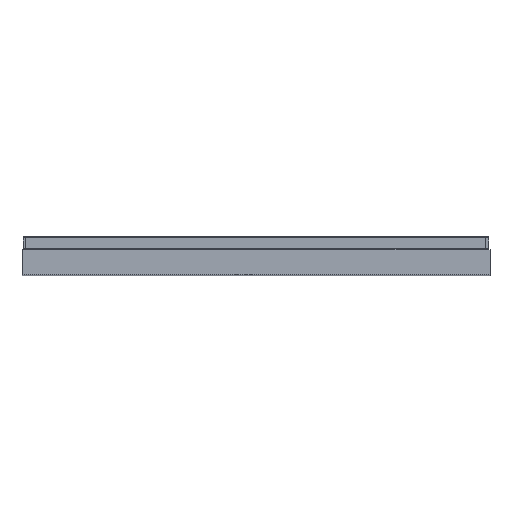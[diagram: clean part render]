
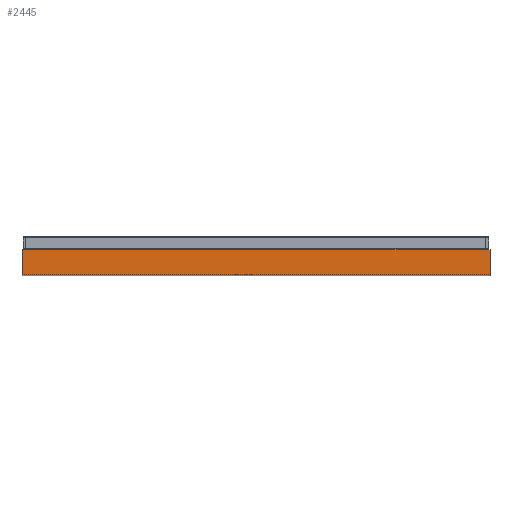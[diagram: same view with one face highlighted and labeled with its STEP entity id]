
A CAD part, top view. The second image highlights one B-rep face of the part: STEP entity #2445.
In plain terms, the highlighted planar face has unit normal (0, 0, 1).
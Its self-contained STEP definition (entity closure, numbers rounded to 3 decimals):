
#94 = VECTOR ( 'NONE', #3108, 1000. ) ;
#179 = CARTESIAN_POINT ( 'NONE',  ( 327.833, 261.697, 299.139 ) ) ;
#355 = VECTOR ( 'NONE', #1208, 1000. ) ;
#499 = EDGE_CURVE ( 'NONE', #1612, #1383, #2391, .T. ) ;
#564 = EDGE_CURVE ( 'NONE', #1612, #3085, #1314, .T. ) ;
#573 = CARTESIAN_POINT ( 'NONE',  ( 159.833, 261.697, 299.139 ) ) ;
#728 = ORIENTED_EDGE ( 'NONE', *, *, #1461, .F. ) ;
#820 = DIRECTION ( 'NONE',  ( 0., -1., 0. ) ) ;
#898 = CARTESIAN_POINT ( 'NONE',  ( 159.833, 252.697, 299.139 ) ) ;
#908 = EDGE_LOOP ( 'NONE', ( #1298, #728, #1960, #3743 ) ) ;
#1127 = DIRECTION ( 'NONE',  ( -1., 0., 0. ) ) ;
#1203 = DIRECTION ( 'NONE',  ( 1., 0., 0. ) ) ;
#1208 = DIRECTION ( 'NONE',  ( 1., 0., 0. ) ) ;
#1268 = CARTESIAN_POINT ( 'NONE',  ( 159.833, 261.697, 299.139 ) ) ;
#1298 = ORIENTED_EDGE ( 'NONE', *, *, #3318, .T. ) ;
#1314 = LINE ( 'NONE', #1268, #94 ) ;
#1379 = VECTOR ( 'NONE', #1203, 1000. ) ;
#1383 = VERTEX_POINT ( 'NONE', #3437 ) ;
#1461 = EDGE_CURVE ( 'NONE', #1383, #2435, #3834, .T. ) ;
#1550 = FACE_OUTER_BOUND ( 'NONE', #908, .T. ) ;
#1612 = VERTEX_POINT ( 'NONE', #3371 ) ;
#1624 = PLANE ( 'NONE',  #1627 ) ;
#1627 = AXIS2_PLACEMENT_3D ( 'NONE', #2035, #3524, #1127 ) ;
#1960 = ORIENTED_EDGE ( 'NONE', *, *, #499, .F. ) ;
#2035 = CARTESIAN_POINT ( 'NONE',  ( 159.833, 261.697, 299.139 ) ) ;
#2117 = LINE ( 'NONE', #898, #1379 ) ;
#2391 = LINE ( 'NONE', #573, #355 ) ;
#2435 = VERTEX_POINT ( 'NONE', #3702 ) ;
#2445 = ADVANCED_FACE ( 'NONE', ( #1550 ), #1624, .F. ) ;
#2738 = CARTESIAN_POINT ( 'NONE',  ( 159.833, 252.697, 299.139 ) ) ;
#3085 = VERTEX_POINT ( 'NONE', #2738 ) ;
#3108 = DIRECTION ( 'NONE',  ( 0., -1., 0. ) ) ;
#3318 = EDGE_CURVE ( 'NONE', #3085, #2435, #2117, .T. ) ;
#3371 = CARTESIAN_POINT ( 'NONE',  ( 159.833, 261.697, 299.139 ) ) ;
#3437 = CARTESIAN_POINT ( 'NONE',  ( 327.833, 261.697, 299.139 ) ) ;
#3472 = VECTOR ( 'NONE', #820, 1000. ) ;
#3524 = DIRECTION ( 'NONE',  ( 0., 0., -1. ) ) ;
#3702 = CARTESIAN_POINT ( 'NONE',  ( 327.833, 252.697, 299.139 ) ) ;
#3743 = ORIENTED_EDGE ( 'NONE', *, *, #564, .T. ) ;
#3834 = LINE ( 'NONE', #179, #3472 ) ;
